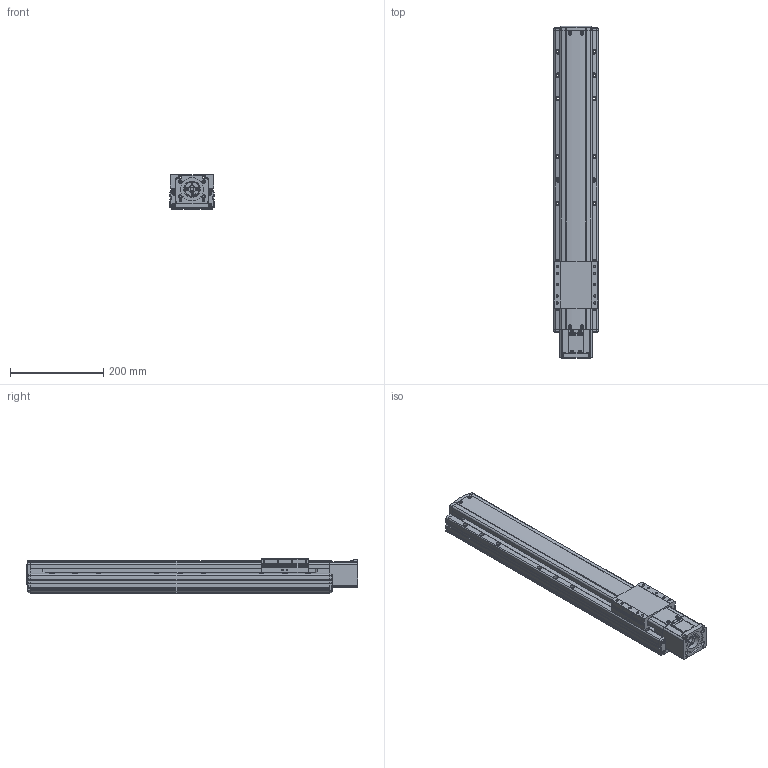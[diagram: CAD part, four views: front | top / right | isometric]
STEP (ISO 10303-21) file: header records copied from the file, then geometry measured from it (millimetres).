
FILE_DESCRIPTION(('STEP AP214'),'1');
FILE_NAME('Z:/Web/3D/PSA95/STP/PSA95-450 (3D)/PSA95ㅁㅁ-450S.stp','2014-07-03T00:24:02',(' '),(' '),'Spatial InterOp 3D',' ',' ');
FILE_SCHEMA(('automotive_design'));
Length unit declared in the file: millimetre
Products named in the file (35): BASE; RRCV; 스크루 : Round - M4.0 x 10.0; 너트 : Square - M10.0 x 220.7419; RR1500; FRCV-090; 스크루 : Round - M4.0 x 6.0; SLBL-PA90; SSFX-SAN65; CPLCV-SAN65; 스크루 : Round - M3.0 x 6.0; MTHZ-PA70/90-S60A-3; 스크루 : Socket - M4.0 x 20.0; NONE
Bounding box: 95 x 712.5 x 74 mm (x, y, z)
Volume: 3729238.4 mm3; surface area: 429595.6 mm2
Topology: 35 solids, 69 shells, 3051 faces, 7824 edges, 4928 vertices
Faces by surface type: plane 1458, cylinder 974, cone 383, torus 158, sphere 46, bspline 32
Entity records: 120296 total; most frequent: CARTESIAN_POINT 19875, DIRECTION 16372, ORIENTED_EDGE 15360, EDGE_CURVE 7680, AXIS2_PLACEMENT_3D 5867, VERTEX_POINT 4928, LINE 4638, VECTOR 4638
